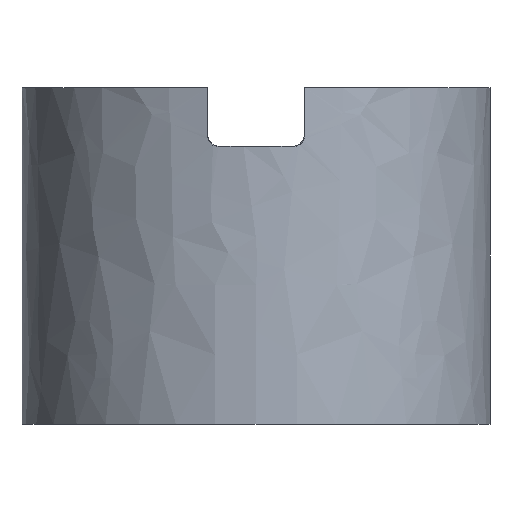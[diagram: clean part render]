
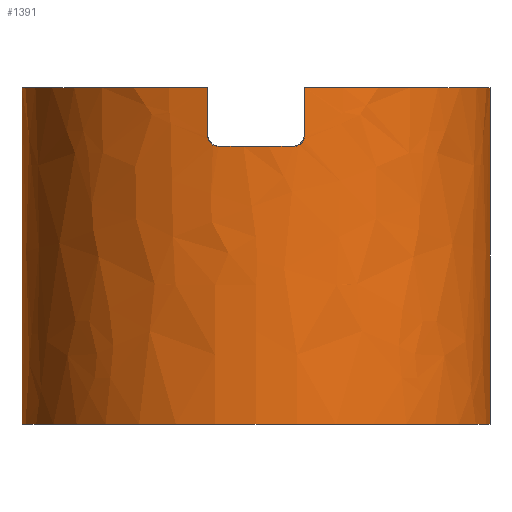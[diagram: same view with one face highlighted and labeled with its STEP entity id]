
A CAD part, left-side view. The second image highlights one B-rep face of the part: STEP entity #1391.
In plain terms, the highlighted free-form (B-spline) face has degree [8, 1] with [9, 2] control points.
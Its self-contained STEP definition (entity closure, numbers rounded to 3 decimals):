
#30=CARTESIAN_POINT('',(0.,0.,36.));
#31=DIRECTION('',(0.,0.,-1.));
#32=DIRECTION('',(0.,-1.,0.));
#33=AXIS2_PLACEMENT_3D('',#30,#31,#32);
#61=CARTESIAN_POINT('',(0.,0.,36.));
#62=DIRECTION('',(0.,0.,-1.));
#63=DIRECTION('',(-0.978,0.208,0.));
#64=AXIS2_PLACEMENT_3D('',#61,#62,#63);
#420=DIRECTION('',(0.,0.,-1.));
#421=VECTOR('',#420,36.);
#422=CARTESIAN_POINT('',(0.,25.,36.));
#423=LINE('',#422,#421);
#429=DIRECTION('',(0.,0.,-1.));
#430=VECTOR('',#429,36.);
#431=CARTESIAN_POINT('',(0.,-25.,36.));
#432=LINE('',#431,#430);
#441=DIRECTION('',(0.,0.,1.));
#442=VECTOR('',#441,5.1);
#443=CARTESIAN_POINT('',(-24.453,-5.2,30.9));
#444=LINE('',#443,#442);
#445=CARTESIAN_POINT('',(0.,0.,0.));
#446=DIRECTION('',(0.,0.,-1.));
#447=DIRECTION('',(0.,-1.,0.));
#448=AXIS2_PLACEMENT_3D('',#445,#446,#447);
#450=DIRECTION('',(0.,0.,1.));
#451=VECTOR('',#450,5.1);
#452=CARTESIAN_POINT('',(-24.453,5.2,30.9));
#453=LINE('',#452,#451);
#454=CARTESIAN_POINT('',(-24.678,4.,29.7));
#455=CARTESIAN_POINT('',(-24.673,4.033,29.7));
#456=CARTESIAN_POINT('',(-24.662,4.1,29.703));
#457=CARTESIAN_POINT('',(-24.645,4.199,29.715));
#458=CARTESIAN_POINT('',(-24.628,4.298,29.736));
#459=CARTESIAN_POINT('',(-24.611,4.393,29.765));
#460=CARTESIAN_POINT('',(-24.594,4.486,29.801));
#461=CARTESIAN_POINT('',(-24.578,4.576,29.846));
#462=CARTESIAN_POINT('',(-24.562,4.662,29.897));
#463=CARTESIAN_POINT('',(-24.546,4.743,29.956));
#464=CARTESIAN_POINT('',(-24.531,4.818,30.021));
#465=CARTESIAN_POINT('',(-24.517,4.889,30.091));
#466=CARTESIAN_POINT('',(-24.505,4.952,30.168));
#467=CARTESIAN_POINT('',(-24.493,5.009,30.248));
#468=CARTESIAN_POINT('',(-24.483,5.059,30.333));
#469=CARTESIAN_POINT('',(-24.474,5.102,30.423));
#470=CARTESIAN_POINT('',(-24.466,5.138,30.514));
#471=CARTESIAN_POINT('',(-24.461,5.165,30.608));
#472=CARTESIAN_POINT('',(-24.456,5.185,30.705));
#473=CARTESIAN_POINT('',(-24.454,5.197,30.802));
#474=CARTESIAN_POINT('',(-24.453,5.2,30.867));
#475=CARTESIAN_POINT('',(-24.453,5.2,30.9));
#477=CARTESIAN_POINT('',(0.,0.,29.7));
#478=DIRECTION('',(0.,0.,1.));
#479=DIRECTION('',(-0.987,0.16,0.));
#480=AXIS2_PLACEMENT_3D('',#477,#478,#479);
#482=CARTESIAN_POINT('',(-24.453,-5.2,30.9));
#483=CARTESIAN_POINT('',(-24.453,-5.2,30.867));
#484=CARTESIAN_POINT('',(-24.454,-5.197,30.802));
#485=CARTESIAN_POINT('',(-24.456,-5.185,30.705));
#486=CARTESIAN_POINT('',(-24.461,-5.165,30.608));
#487=CARTESIAN_POINT('',(-24.466,-5.138,30.514));
#488=CARTESIAN_POINT('',(-24.474,-5.102,30.423));
#489=CARTESIAN_POINT('',(-24.483,-5.059,30.334));
#490=CARTESIAN_POINT('',(-24.493,-5.009,30.248));
#491=CARTESIAN_POINT('',(-24.505,-4.952,30.168));
#492=CARTESIAN_POINT('',(-24.517,-4.889,30.091));
#493=CARTESIAN_POINT('',(-24.531,-4.818,30.021));
#494=CARTESIAN_POINT('',(-24.546,-4.743,29.956));
#495=CARTESIAN_POINT('',(-24.562,-4.662,29.897));
#496=CARTESIAN_POINT('',(-24.578,-4.576,29.846));
#497=CARTESIAN_POINT('',(-24.594,-4.486,29.801));
#498=CARTESIAN_POINT('',(-24.611,-4.393,29.765));
#499=CARTESIAN_POINT('',(-24.628,-4.298,29.736));
#500=CARTESIAN_POINT('',(-24.645,-4.199,29.715));
#501=CARTESIAN_POINT('',(-24.662,-4.1,29.703));
#502=CARTESIAN_POINT('',(-24.673,-4.033,29.7));
#503=CARTESIAN_POINT('',(-24.678,-4.,29.7));
#559=CARTESIAN_POINT('',(0.,25.,36.));
#560=CARTESIAN_POINT('',(0.,25.,0.));
#561=VERTEX_POINT('',#559);
#562=VERTEX_POINT('',#560);
#569=CARTESIAN_POINT('',(0.,-25.,36.));
#570=CARTESIAN_POINT('',(0.,-25.,0.));
#571=VERTEX_POINT('',#569);
#572=VERTEX_POINT('',#570);
#586=CARTESIAN_POINT('',(-24.453,-5.2,30.9));
#587=CARTESIAN_POINT('',(-24.453,-5.2,36.));
#588=VERTEX_POINT('',#586);
#589=VERTEX_POINT('',#587);
#590=VERTEX_POINT('',#503);
#591=CARTESIAN_POINT('',(-24.678,4.,29.7));
#592=VERTEX_POINT('',#591);
#593=VERTEX_POINT('',#475);
#594=CARTESIAN_POINT('',(-24.453,5.2,36.));
#595=VERTEX_POINT('',#594);
#1357=CARTESIAN_POINT('',(1.57,24.951,-0.72));
#1358=CARTESIAN_POINT('',(1.57,24.951,36.72));
#1359=CARTESIAN_POINT('',(-8.62,25.592,-0.72));
#1360=CARTESIAN_POINT('',(-8.62,25.592,36.72));
#1361=CARTESIAN_POINT('',(-19.11,21.477,-0.72));
#1362=CARTESIAN_POINT('',(-19.11,21.477,36.72));
#1363=CARTESIAN_POINT('',(-27.307,12.45,-0.72));
#1364=CARTESIAN_POINT('',(-27.307,12.45,36.72));
#1365=CARTESIAN_POINT('',(-30.524,-0.003,-0.72));
#1366=CARTESIAN_POINT('',(-30.524,-0.003,36.72));
#1367=CARTESIAN_POINT('',(-27.307,-12.446,-0.72));
#1368=CARTESIAN_POINT('',(-27.307,-12.446,36.72));
#1369=CARTESIAN_POINT('',(-19.11,-21.477,-0.72));
#1370=CARTESIAN_POINT('',(-19.11,-21.477,36.72));
#1371=CARTESIAN_POINT('',(-8.62,-25.592,-0.72));
#1372=CARTESIAN_POINT('',(-8.62,-25.592,36.72));
#1373=CARTESIAN_POINT('',(1.57,-24.951,-0.72));
#1374=CARTESIAN_POINT('',(1.57,-24.951,36.72));
#1375=B_SPLINE_SURFACE_WITH_KNOTS('',8,1,((#1357,#1358),(#1359,#1360),(#1361,
#1362),(#1363,#1364),(#1365,#1366),(#1367,#1368),(#1369,#1370),(#1371,#1372),(
#1373,#1374)),.UNSPECIFIED.,.F.,.F.,.F.,(9,9),(2,2),(-0.063,
3.204),(-0.72,36.72),.UNSPECIFIED.);
#1376=ORIENTED_EDGE('',*,*,#735,.T.);
#1377=ORIENTED_EDGE('',*,*,#653,.F.);
#1378=ORIENTED_EDGE('',*,*,#1287,.T.);
#1379=ORIENTED_EDGE('',*,*,#1239,.T.);
#1380=ORIENTED_EDGE('',*,*,#1284,.F.);
#1381=ORIENTED_EDGE('',*,*,#688,.F.);
#1383=ORIENTED_EDGE('',*,*,#1382,.F.);
#1385=ORIENTED_EDGE('',*,*,#1384,.F.);
#1387=ORIENTED_EDGE('',*,*,#1386,.T.);
#1388=ORIENTED_EDGE('',*,*,#1315,.F.);
#1389=EDGE_LOOP('',(#1376,#1377,#1378,#1379,#1380,#1381,#1383,#1385,#1387,
#1388));
#1390=FACE_OUTER_BOUND('',#1389,.F.);
#34=CIRCLE('',#33,25.);
#65=CIRCLE('',#64,25.);
#449=CIRCLE('',#448,25.);
#476=B_SPLINE_CURVE_WITH_KNOTS('',3,(#454,#455,#456,#457,#458,#459,#460,#461,
#462,#463,#464,#465,#466,#467,#468,#469,#470,#471,#472,#473,#474,#475),
.UNSPECIFIED.,.F.,.F.,(4,1,1,1,1,1,1,1,1,1,1,1,1,1,1,1,1,1,1,4),(0.,
0.053,0.105,0.158,0.211,
0.263,0.316,0.368,0.421,
0.474,0.526,0.579,0.632,
0.684,0.737,0.789,0.842,
0.895,0.947,1.),.UNSPECIFIED.);
#481=CIRCLE('',#480,25.);
#504=B_SPLINE_CURVE_WITH_KNOTS('',3,(#482,#483,#484,#485,#486,#487,#488,#489,
#490,#491,#492,#493,#494,#495,#496,#497,#498,#499,#500,#501,#502,#503),
.UNSPECIFIED.,.F.,.F.,(4,1,1,1,1,1,1,1,1,1,1,1,1,1,1,1,1,1,1,4),(0.,
0.053,0.105,0.158,0.211,
0.263,0.316,0.368,0.421,
0.474,0.526,0.579,0.632,
0.684,0.737,0.789,0.842,
0.895,0.947,1.),.UNSPECIFIED.);
#653=EDGE_CURVE('',#571,#589,#34,.T.);
#688=EDGE_CURVE('',#595,#561,#65,.T.);
#735=EDGE_CURVE('',#588,#589,#444,.T.);
#1239=EDGE_CURVE('',#572,#562,#449,.T.);
#1284=EDGE_CURVE('',#561,#562,#423,.T.);
#1287=EDGE_CURVE('',#571,#572,#432,.T.);
#1315=EDGE_CURVE('',#588,#590,#504,.T.);
#1382=EDGE_CURVE('',#593,#595,#453,.T.);
#1384=EDGE_CURVE('',#592,#593,#476,.T.);
#1386=EDGE_CURVE('',#592,#590,#481,.T.);
#1391=ADVANCED_FACE('',(#1390),#1375,.T.);
